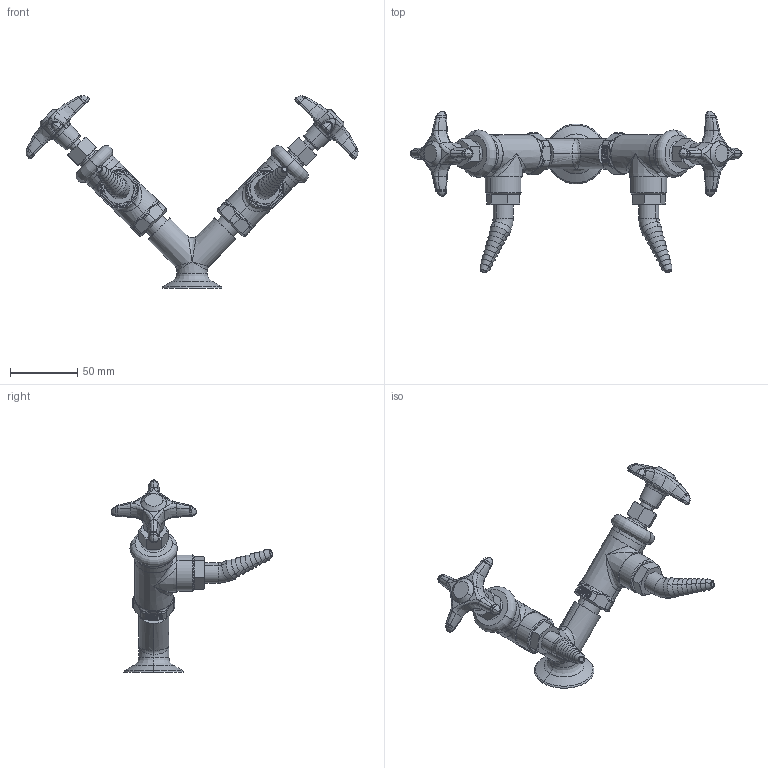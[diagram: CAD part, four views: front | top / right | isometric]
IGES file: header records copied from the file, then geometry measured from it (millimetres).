
Start section:  PTC IGES file: LGN3-A21F-60.igs
Global section: file name: LGN3-A21F-60.igs; native system: Creo Parametric by PTC Inc.; preprocessor: 2014500; author: usch_engrender; organization: Unknown; date: 20160105.122554; units: inch
Bounding box: 247.03 x 120.38 x 143.29 mm (x, y, z)
Volume: 158857.9 mm3; surface area: 64812.9 mm2
Topology: 1 solids, 10 shells, 1247 faces, 2867 edges, 1680 vertices
Faces by surface type: bspline 717, revolution 530
